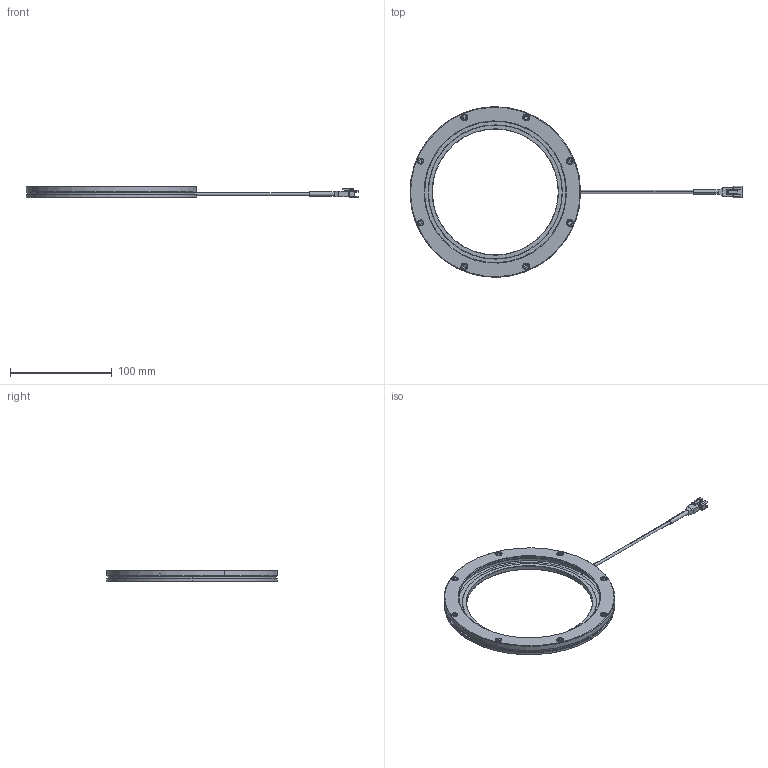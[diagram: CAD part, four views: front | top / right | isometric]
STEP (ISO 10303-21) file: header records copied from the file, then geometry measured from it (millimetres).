
FILE_DESCRIPTION (( 'STEP AP203' ), '1' );
FILE_NAME ('VTWL-HR124168-W_R.STEP', '2020-10-07T05:51:39', ( '' ), ( '' ), 'SwSTEP 2.0', 'SolidWorks 2020', '' );
FILE_SCHEMA (( 'CONFIG_CONTROL_DESIGN' ));
Length unit declared in the file: millimetre
Products named in the file (5): SM 2.5 CABLE 2P_CABLE + 2601-3H; 黑碳鋼 內六角螺絲 M3 x 5_M3 x 5 螺絲; VTWL-HR124168-W_R; LENS COVER LEVEL3_TMR0005D305A; SIDE LIGHT BASE LEVEL3_TMR0005D307A
Assembly tree (11 placements, depth 2):
  VTWL-HR124168-W_R
    SIDE LIGHT BASE LEVEL3_TMR0005D307A
    LENS COVER LEVEL3_TMR0005D305A
    SM 2.5 CABLE 2P_CABLE + 2601-3H
    黑碳鋼 內六角螺絲 M3 x 5_M3 x 5 螺絲  x8
Bounding box: 327 x 168 x 11 mm (x, y, z)
Volume: 72980.2 mm3; surface area: 51704.6 mm2
Topology: 12 solids, 12 shells, 566 faces, 1286 edges, 805 vertices
Faces by surface type: plane 300, cylinder 181, cone 44, torus 36, bspline 5
Entity records: 12207 total; most frequent: CARTESIAN_POINT 2436, DIRECTION 1954, ORIENTED_EDGE 1816, EDGE_CURVE 908, AXIS2_PLACEMENT_3D 701, VERTEX_POINT 581, VECTOR 552, LINE 552
